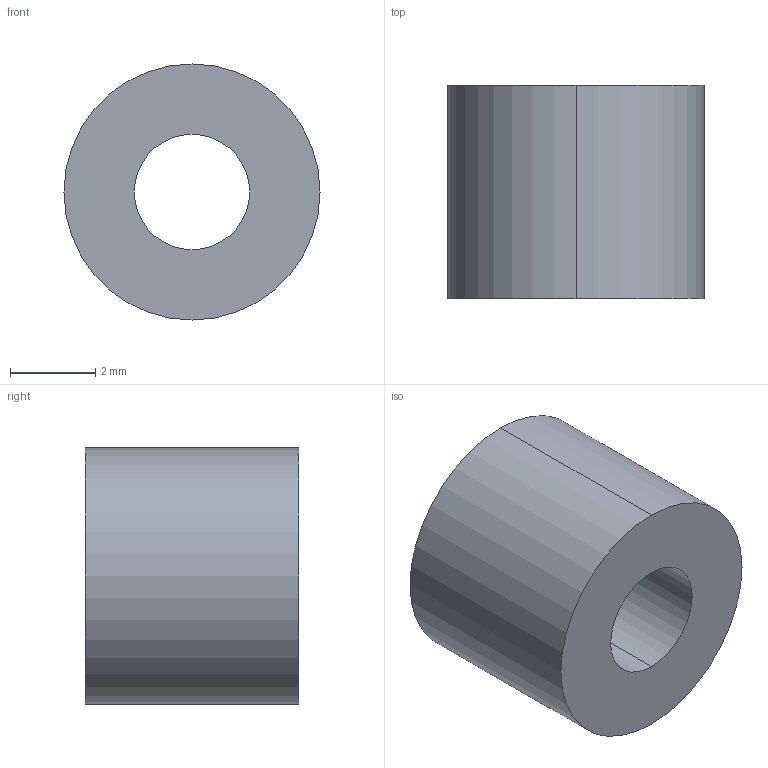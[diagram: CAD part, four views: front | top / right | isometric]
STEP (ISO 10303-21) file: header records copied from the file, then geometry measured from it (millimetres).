
FILE_DESCRIPTION (( 'STEP AP214' ), '1' );
FILE_NAME ('S-2.7x5x6.STEP', '2014-12-30T11:11:24', ( 'Tester2' ), ( '' ), 'SwSTEP 2.0', 'SolidWorks 2012', '' );
FILE_SCHEMA (( 'AUTOMOTIVE_DESIGN' ));
Length unit declared in the file: millimetre
Products named in the file (1): S-2.7x5x6
Bounding box: 6 x 5 x 6 mm (x, y, z)
Volume: 112.7 mm3; surface area: 181.8 mm2
Topology: 1 solids, 1 shells, 6 faces, 12 edges, 8 vertices
Faces by surface type: cylinder 4, plane 2
Entity records: 202 total; most frequent: DIRECTION 34, CARTESIAN_POINT 27, ORIENTED_EDGE 24, AXIS2_PLACEMENT_3D 15, EDGE_CURVE 12, CIRCLE 8, VERTEX_POINT 8, EDGE_LOOP 8
